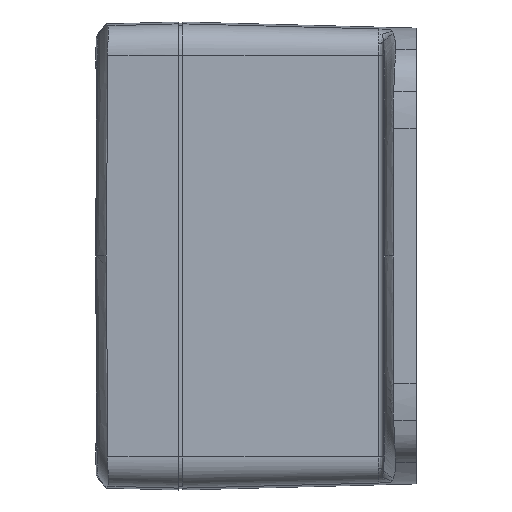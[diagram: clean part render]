
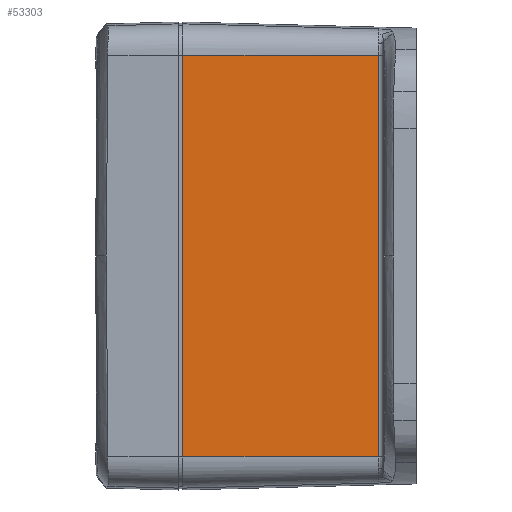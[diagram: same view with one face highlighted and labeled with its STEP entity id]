
A CAD part, left-side view. The second image highlights one B-rep face of the part: STEP entity #53303.
In plain terms, the highlighted planar face has unit normal (-1, -0.026, 0).
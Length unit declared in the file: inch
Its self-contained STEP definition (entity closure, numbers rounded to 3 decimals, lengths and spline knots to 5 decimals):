
#3088 = ORIENTED_EDGE ( 'NONE', *, *, #92479, .F. ) ;
#28915 = AXIS2_PLACEMENT_3D ( 'NONE', #50135, #86483, #40651 ) ;
#34617 = VECTOR ( 'NONE', #99020, 39.37008 ) ;
#34789 = LINE ( 'NONE', #143764, #155902 ) ;
#35594 = DIRECTION ( 'NONE',  ( 0.026, -1., 0. ) ) ;
#40651 = DIRECTION ( 'NONE',  ( 0.026, -1., 0. ) ) ;
#41036 = CARTESIAN_POINT ( 'NONE',  ( -2.5, 1.87125, -1.60995 ) ) ;
#43829 = ORIENTED_EDGE ( 'NONE', *, *, #56416, .T. ) ;
#50135 = CARTESIAN_POINT ( 'NONE',  ( -2.5, 1.87125, -1.60995 ) ) ;
#53303 = ADVANCED_FACE ( 'Face2', ( #122019 ), #100679, .T. ) ;
#56416 = EDGE_CURVE ( 'NONE', #110892, #78177, #110883, .T. ) ;
#57860 = CARTESIAN_POINT ( 'NONE',  ( -2.45894, 0.30318, 1.60995 ) ) ;
#77262 = EDGE_LOOP ( 'NONE', ( #43829, #144867, #3088, #110148 ) ) ;
#78177 = VERTEX_POINT ( 'NONE', #153691 ) ;
#80696 = VERTEX_POINT ( 'NONE', #109837 ) ;
#86483 = DIRECTION ( 'NONE',  ( -1., -0.026, 0. ) ) ;
#89539 = EDGE_CURVE ( 'NONE', #110892, #80696, #127853, .T. ) ;
#92479 = EDGE_CURVE ( 'NONE', #80696, #143220, #34789, .T. ) ;
#99020 = DIRECTION ( 'NONE',  ( 0.026, -1., 0. ) ) ;
#100679 = PLANE ( 'NONE',  #28915 ) ;
#100870 = LINE ( 'NONE', #136402, #150271 ) ;
#105661 = CARTESIAN_POINT ( 'NONE',  ( -2.5, 1.87125, -1.60995 ) ) ;
#109837 = CARTESIAN_POINT ( 'NONE',  ( -2.5, 1.87125, 1.60995 ) ) ;
#110148 = ORIENTED_EDGE ( 'NONE', *, *, #89539, .F. ) ;
#110883 = LINE ( 'NONE', #144850, #34617 ) ;
#110892 = VERTEX_POINT ( 'NONE', #105661 ) ;
#114996 = VECTOR ( 'NONE', #138144, 39.37008 ) ;
#121415 = DIRECTION ( 'NONE',  ( 0., 0., 1. ) ) ;
#122019 = FACE_OUTER_BOUND ( 'NONE', #77262, .T. ) ;
#127853 = LINE ( 'NONE', #41036, #114996 ) ;
#136402 = CARTESIAN_POINT ( 'NONE',  ( -2.45894, 0.30319, -1.60995 ) ) ;
#138144 = DIRECTION ( 'NONE',  ( 0., 0., 1. ) ) ;
#139343 = EDGE_CURVE ( 'NONE', #78177, #143220, #100870, .T. ) ;
#143220 = VERTEX_POINT ( 'NONE', #57860 ) ;
#143764 = CARTESIAN_POINT ( 'NONE',  ( -2.5, 1.87125, 1.60995 ) ) ;
#144850 = CARTESIAN_POINT ( 'NONE',  ( -2.5, 1.87125, -1.60995 ) ) ;
#144867 = ORIENTED_EDGE ( 'NONE', *, *, #139343, .T. ) ;
#150271 = VECTOR ( 'NONE', #121415, 39.37008 ) ;
#153691 = CARTESIAN_POINT ( 'NONE',  ( -2.45894, 0.30318, -1.60995 ) ) ;
#155902 = VECTOR ( 'NONE', #35594, 39.37008 ) ;
